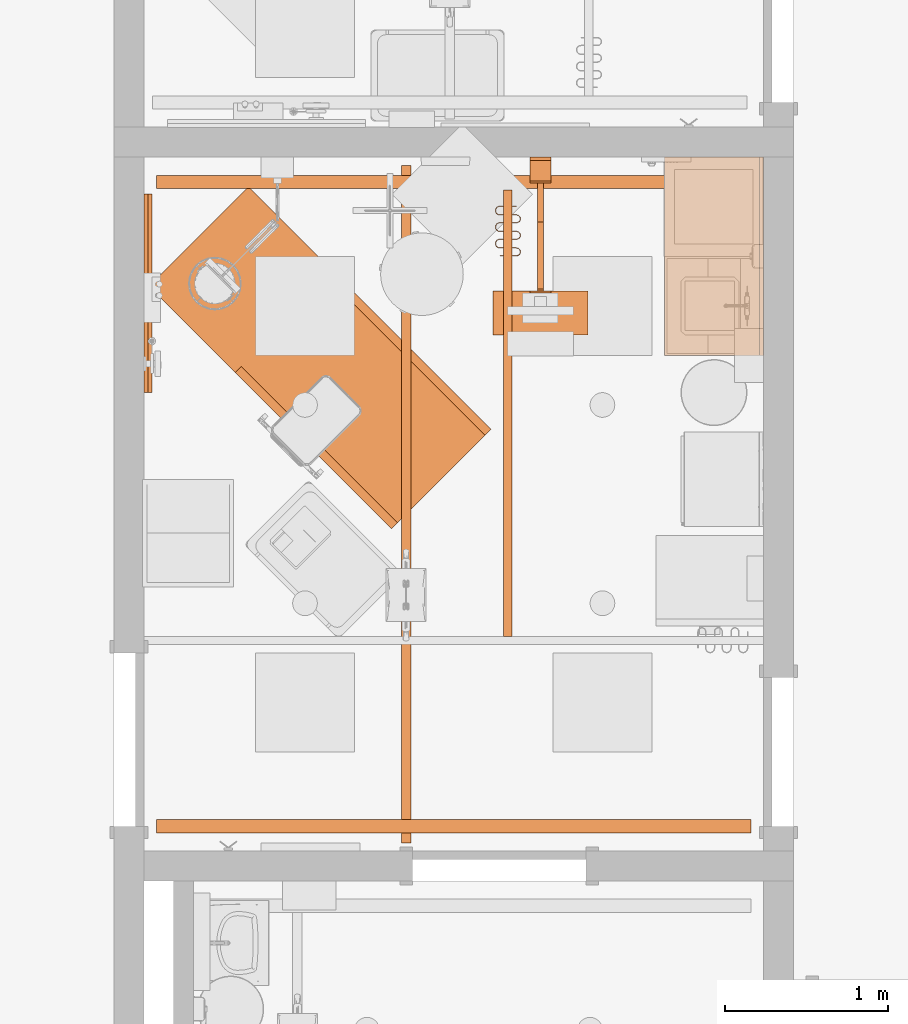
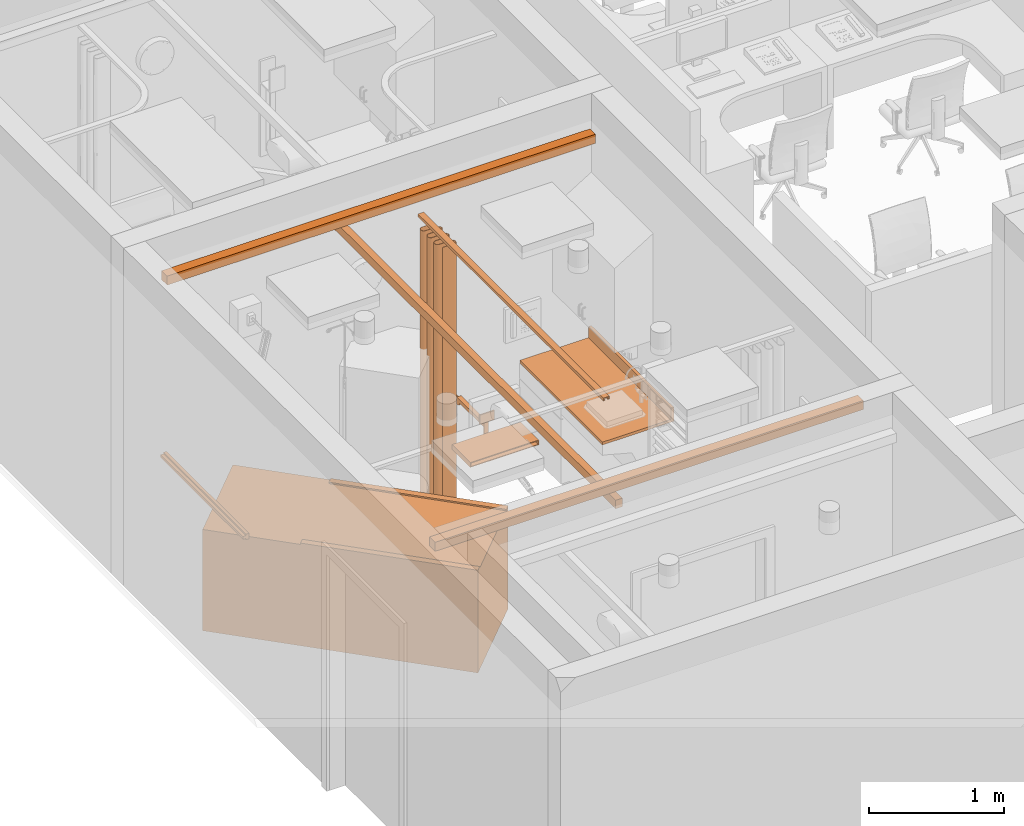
# One storey, part 10 of 142: 6 proxies.
"""IFC2X3 building model written with IfcOpenShell, lengths in feet."""

from ifc_helpers import new_model, entity, si_unit, converted_unit, derived_unit, direction, frame, frame_2d, origin, origin_2d_with_axis, place, context, subcontext, project, spatial, polyline, circle_curve, parameter, trimmed, segment, composite_curve, rectangle, circle, outline, extrude, source, transform, mapped, type_object, type_shapes, element, save


model = new_model("IFC2X3")

# Units and contexts
model_context = context("Model", 3, precision=0.0001, world=origin(), true_north=direction((6.12303176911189e-17, 1.0)))
body_context = subcontext(model_context, "Body", "Model", "MODEL_VIEW")
ifc_project = project(units=[converted_unit("LENGTHUNIT", "FOOT", entity("IfcRatioMeasure", 0.3048), si_unit("LENGTHUNIT", "METRE"), dimensions=[1, 0, 0, 0, 0, 0, 0]), converted_unit("AREAUNIT", "SQUARE FOOT", entity("IfcRatioMeasure", 0.09290304), si_unit("AREAUNIT", "SQUARE_METRE"), dimensions=[2, 0, 0, 0, 0, 0, 0]), converted_unit("VOLUMEUNIT", "CUBIC FOOT", entity("IfcRatioMeasure", 0.028316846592), si_unit("VOLUMEUNIT", "CUBIC_METRE"), dimensions=[3, 0, 0, 0, 0, 0, 0]), converted_unit("PLANEANGLEUNIT", "DEGREE", entity("IfcRatioMeasure", 0.0174532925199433), si_unit("PLANEANGLEUNIT", "RADIAN"), dimensions=[0, 0, 0, 0, 0, 0, 0]), si_unit("MASSUNIT", "GRAM", prefix="KILO"), derived_unit("MASSDENSITYUNIT", [(si_unit("MASSUNIT", "GRAM", prefix="KILO"), 1), (si_unit("LENGTHUNIT", "METRE"), -3)]), si_unit("TIMEUNIT", "SECOND"), si_unit("FREQUENCYUNIT", "HERTZ"), si_unit("THERMODYNAMICTEMPERATUREUNIT", "DEGREE_CELSIUS"), derived_unit("THERMALTRANSMITTANCEUNIT", [(si_unit("MASSUNIT", "GRAM", prefix="KILO"), 1), (si_unit("THERMODYNAMICTEMPERATUREUNIT", "KELVIN"), -1), (si_unit("TIMEUNIT", "SECOND"), -3)]), derived_unit("VOLUMETRICFLOWRATEUNIT", [(si_unit("LENGTHUNIT", "METRE"), 3), (si_unit("TIMEUNIT", "SECOND"), -1)]), si_unit("ELECTRICCURRENTUNIT", "AMPERE"), si_unit("ELECTRICVOLTAGEUNIT", "VOLT"), si_unit("POWERUNIT", "WATT"), si_unit("FORCEUNIT", "NEWTON"), si_unit("ILLUMINANCEUNIT", "LUX"), si_unit("LUMINOUSFLUXUNIT", "LUMEN"), si_unit("LUMINOUSINTENSITYUNIT", "CANDELA"), derived_unit("USERDEFINED", [(si_unit("MASSUNIT", "GRAM", prefix="KILO"), -1), (si_unit("LENGTHUNIT", "METRE"), -2), (si_unit("TIMEUNIT", "SECOND"), 3), (si_unit("LUMINOUSFLUXUNIT", "LUMEN"), 1)]), derived_unit("LINEARVELOCITYUNIT", [(si_unit("LENGTHUNIT", "METRE"), 1), (si_unit("TIMEUNIT", "SECOND"), -1)]), si_unit("PRESSUREUNIT", "PASCAL"), derived_unit("USERDEFINED", [(si_unit("LENGTHUNIT", "METRE"), -2), (si_unit("MASSUNIT", "GRAM", prefix="KILO"), 1), (si_unit("TIMEUNIT", "SECOND"), -2)])], contexts=[model_context])

# Site, building, storey, space
site_placement = place(None, origin())
site = spatial("IfcSite", under=ifc_project, at=site_placement, Name="Default", CompositionType="ELEMENT")
building_placement = place(site_placement, origin())
building = spatial("IfcBuilding", under=site, at=building_placement, Name="OUTPATIENT / PACT CLINIC (Ch. 265)", CompositionType="ELEMENT")
storey_placement = place(building_placement, origin())
storey = spatial("IfcBuildingStorey", under=building, at=storey_placement, Name="LEVEL 1", CompositionType="ELEMENT", Elevation=0.0)
space_placement = place(storey_placement, origin())
space = spatial("IfcSpace", under=storey, at=space_placement, Name="TRPR1", CompositionType="ELEMENT", InteriorOrExteriorSpace="INTERNAL")

# Proxies
building_element_proxy_type_1 = type_object("IfcBuildingElementProxyType", Name="A1132 - Rail, Accessory Mounting", PredefinedType="NOTDEFINED")
shared_shape_1 = source(origin(), body_context, "Body", "SweptSolid", [
    extrude(outline(polyline([(0.0416666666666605, 0.0), (0.0833333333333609, 0.0), (0.083333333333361, 0.0833333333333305), (-0.0833333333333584, 0.0833333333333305), (-0.0833333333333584, 0.0), (-0.0416666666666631, 0.0), (-0.0416666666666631, -0.0833333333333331), (0.0416666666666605, -0.0833333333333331), (0.0416666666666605, 0.0)])), frame((-2.0, -0.0833333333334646, 0.0833333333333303), z_axis=(1.0, 0.0, 0.0), x_axis=(0.0, 0.0, 1.0)), (0.0, 0.0, 1.0), 4.0),
])
type_shapes(building_element_proxy_type_1, [shared_shape_1])
proxy_1_placement = place(space_placement, frame((390.963449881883, -934.792665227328, 4.0), z_axis=(0.0, 0.0, 1.0), x_axis=(0.0, 1.0, 0.0)))
element("IfcBuildingElementProxy", 1, at=proxy_1_placement, inside=space, type_object=building_element_proxy_type_1, Name="A1132 - Rail, Accessory Mounting:A1132 - Rail, Accessory Mounting", ObjectType="A1132 - Rail, Accessory Mounting", context=body_context, shape_type="MappedRepresentation", body=[
    mapped(shared_shape_1, transform((0.0, 0.0, 0.0), scale=1.0)),
])
building_element_proxy_type_2 = type_object("IfcBuildingElementProxyType", Name="A1203 Lift System, Overhead, Bariatric", PredefinedType="NOTDEFINED")
shared_shape_2 = source(origin(), body_context, "Body", "SweptSolid", [
    extrude(rectangle(XDim=13.6666850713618, YDim=0.190288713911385, at=frame_2d((-8.88178419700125e-16, 5.55111512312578e-17), x_axis=(1.0, 0.0))), frame((0.244358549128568, 0.961764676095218, 8.63910761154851), z_axis=(0.0, 0.0, 1.0), x_axis=(-1.0, 0.0, 0.0)), (0.0, 0.0, 1.0), 0.249343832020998),
    extrude(rectangle(XDim=11.9998599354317, YDim=0.267060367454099, at=frame_2d((0.0, 4.44089209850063e-16), x_axis=(1.0, 0.0))), frame((6.74436775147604, 0.0, 8.99015748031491), z_axis=(0.0, 0.0, 1.0), x_axis=(0.0, 1.0, 0.0)), (0.0, 0.0, 1.0), 0.265748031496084),
    extrude(rectangle(XDim=11.9998599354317, YDim=0.267060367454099, at=frame_2d((0.0, 4.44089209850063e-16), x_axis=(1.0, 0.0))), frame((-6.25565065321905, 0.0, 8.99015748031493), z_axis=(0.0, 0.0, 1.0), x_axis=(0.0, 1.0, 0.0)), (0.0, 0.0, 1.0), 0.265748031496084),
])
type_shapes(building_element_proxy_type_2, [shared_shape_2])
proxy_2_placement = place(space_placement, frame((397.213379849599, -939.289886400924, 0.0), z_axis=(0.0, 0.0, 1.0), x_axis=(0.0, 1.0, 0.0)))
element("IfcBuildingElementProxy", 2, at=proxy_2_placement, inside=space, type_object=building_element_proxy_type_2, Name="A1203 Lift System, Overhead, Bariatric (Traverse):A1203 Lift System, Overhead, Bariatric", ObjectType="A1203 Lift System, Overhead, Bariatric", context=body_context, shape_type="MappedRepresentation", body=[
    mapped(shared_shape_2, transform((0.0, 0.0, 0.0), scale=1.0)),
])
building_element_proxy_type_3 = type_object("IfcBuildingElementProxyType", Name="M1802 - Workstation, Computer, Retractable", PredefinedType="NOTDEFINED")
shared_shape_3 = source(origin(), body_context, "Body", "SweptSolid", [
    extrude(circle(Radius=0.104166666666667, at=frame_2d((1.0547118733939e-15, 4.44089209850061e-16), x_axis=(1.0, 0.0))), frame((-0.0624999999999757, -1.40833333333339, 0.333333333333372), z_axis=(1.0, 0.0, 0.0), x_axis=(0.0, 0.0, 1.0)), (0.0, 0.0, 1.0), 0.125000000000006),
    extrude(outline(composite_curve([segment(polyline([(0.0520833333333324, -0.592708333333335), (0.0520833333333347, 0.644791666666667)]), True, "CONTINUOUS"), segment(polyline([(0.0520833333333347, 0.644791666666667), (-0.0520833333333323, 0.644791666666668)]), True, "CONTINUOUS"), segment(polyline([(-0.0520833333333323, 0.644791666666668), (-0.0520833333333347, -0.696875)]), True, "CONTINUOUS"), segment(trimmed(circle_curve(frame_2d((0.0520833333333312, -0.696875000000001), x_axis=(1.0, 0.0)), 0.104166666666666), [parameter(89.9999999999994)], [parameter(180.0)], True, "PARAMETER"), False, "CONTINUOUS")], self_intersect=False)), frame((-0.0624999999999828, -0.711458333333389, 0.281250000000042), z_axis=(-1.0, 0.0, 0.0), x_axis=(0.0, 0.0, 1.0)), (0.0, 0.0, -1.0), 0.125000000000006),
    extrude(outline(composite_curve([segment(polyline([(-0.651041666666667, -0.0520833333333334), (0.598958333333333, -0.0520833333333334)]), True, "CONTINUOUS"), segment(polyline([(0.598958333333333, -0.0520833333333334), (0.598958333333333, 0.0520833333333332)]), True, "CONTINUOUS"), segment(polyline([(0.598958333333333, 0.0520833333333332), (-0.546874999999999, 0.0520833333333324)]), True, "CONTINUOUS"), segment(trimmed(circle_curve(frame_2d((-0.651041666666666, 0.0520833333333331), x_axis=(0.0, -1.0)), 0.104166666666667), [parameter(1.52666624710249e-13)], [parameter(90.0000000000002)], True, "PARAMETER"), False, "CONTINUOUS")], self_intersect=False)), frame((-0.062499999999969, -2.05937500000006, 0.385416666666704), z_axis=(1.0, 0.0, 0.0), x_axis=(0.0, -1.0, 0.0)), (0.0, 0.0, 1.0), 0.125000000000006),
    extrude(outline(polyline([(-0.0729166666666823, -0.95833333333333), (0.0729166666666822, -0.95833333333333), (0.0729166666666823, 0.95833333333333), (-0.0729166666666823, 0.95833333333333), (-0.0729166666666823, -0.95833333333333)]), holes=[polyline([(-0.052083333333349, -0.937499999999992), (-0.052083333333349, 0.937499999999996), (0.0520833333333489, 0.937499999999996), (0.0520833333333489, -0.937499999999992), (-0.052083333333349, -0.937499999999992)])]), frame((0.0, -3.58333333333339, 0.0729166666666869), z_axis=(0.0, 1.0, 0.0), x_axis=(0.0, 0.0, -1.0)), (0.0, 0.0, 1.0), 0.883333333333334),
    extrude(rectangle(XDim=0.0666666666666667, YDim=0.416666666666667, at=origin_2d_with_axis()), frame((0.0, -0.0333333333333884, 0.0), z_axis=(0.0, 0.0, 1.0), x_axis=(0.0, 1.0, 0.0)), (0.0, 0.0, 1.0), 0.11949518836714),
    extrude(outline(polyline([(-0.208333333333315, -0.0270833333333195), (-0.0625000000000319, -0.0270833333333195), (-0.0625000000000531, 0.014583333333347), (0.0625000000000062, 0.014583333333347), (0.0625000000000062, -0.0270833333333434), (0.208333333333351, -0.0270833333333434), (0.208333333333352, 0.0395833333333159), (-0.208333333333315, 0.0395833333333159), (-0.208333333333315, -0.0270833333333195)])), frame((0.0, -0.0395833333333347, 0.119495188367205)), (0.0, 0.0, 1.0), 2.0471714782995),
    extrude(outline(polyline([(-0.194444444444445, 0.125), (0.430555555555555, 0.125), (0.430555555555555, 0.166666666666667), (-0.236111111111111, 0.166666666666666), (-0.236111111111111, -0.291666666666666), (-0.194444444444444, -0.291666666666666), (-0.194444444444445, 0.125)])), frame((-0.208333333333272, -0.358333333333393, 2.40277777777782), z_axis=(1.0, 0.0, 0.0), x_axis=(0.0, 0.0, 1.0)), (0.0, 0.0, 1.0), 0.416666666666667),
    extrude(rectangle(XDim=0.0416666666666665, YDim=0.416666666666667, at=frame_2d((2.22044604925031e-16, 0.0), x_axis=(1.0, 0.0))), frame((0.0, -2.72083333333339, 0.503601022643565), z_axis=(0.0, 0.0, 1.0), x_axis=(0.0, 1.0, 0.0)), (0.0, 0.0, 1.0), 0.267232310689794),
    extrude(rectangle(XDim=0.125000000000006, YDim=0.0416666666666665, at=origin_2d_with_axis()), frame((0.0, -2.67916666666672, 0.0), z_axis=(0.0, 0.0, 1.0), x_axis=(-1.0, 0.0, 0.0)), (0.0, 0.0, 1.0), 0.666666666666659),
    extrude(rectangle(XDim=0.0666666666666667, YDim=0.416666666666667, at=origin_2d_with_axis()), frame((0.0, -0.0333333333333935, 2.16666666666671), z_axis=(0.0, 0.0, 1.0), x_axis=(0.0, 1.0, 0.0)), (0.0, 0.0, 1.0), 0.666666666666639),
])
type_shapes(building_element_proxy_type_3, [shared_shape_3])
proxy_3_placement = place(space_placement, frame((398.963309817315, -932.045518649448, 3.0)))
element("IfcBuildingElementProxy", 3, at=proxy_3_placement, inside=space, type_object=building_element_proxy_type_3, Name="M1802 - Workstation, Computer, Retractable:M1802 - Workstation, Computer, Retractable", ObjectType="M1802 - Workstation, Computer, Retractable", context=body_context, shape_type="MappedRepresentation", body=[
    mapped(shared_shape_3, transform((0.0, 0.0, 0.0), scale=1.0)),
])
building_element_proxy_type_4 = type_object("IfcBuildingElementProxyType", Name="CT020 - Countertop, Solid Surface - No Opening", PredefinedType="NOTDEFINED")
shared_shape_4 = source(origin(), body_context, "Body", "SweptSolid", [
    extrude(rectangle(XDim=4.0, YDim=0.083333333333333, at=frame_2d((0.0, -5.55111512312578e-17), x_axis=(1.0, 0.0))), frame((0.0, 0.958333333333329, 0.0833333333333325)), (0.0, 0.0, 1.0), 0.333333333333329),
    extrude(rectangle(XDim=4.0, YDim=2.0, at=frame_2d((3.33066907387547e-16, 0.0), x_axis=(1.0, 0.0))), origin(), (0.0, 0.0, 1.0), 0.0833333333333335),
])
type_shapes(building_element_proxy_type_4, [shared_shape_4])
proxy_4_placement = place(space_placement, frame((402.463309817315, -934.045518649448, 2.70833333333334), z_axis=(0.0, 0.0, 1.0), x_axis=(0.0, -1.0, 0.0)))
element("IfcBuildingElementProxy", 4, at=proxy_4_placement, inside=space, type_object=building_element_proxy_type_4, Name="CT020 - Countertop, Solid Surface - No Opening:CT020 - Countertop, Solid Surface - No Opening", ObjectType="CT020 - Countertop, Solid Surface - No Opening", context=body_context, shape_type="MappedRepresentation", body=[
    mapped(shared_shape_4, transform((0.0, 0.0, 0.0), scale=1.0)),
])
building_element_proxy_type_5 = type_object("IfcBuildingElementProxyType", Name="M4655 - Stretcher, Mobile, CRS, 9 Position", PredefinedType="NOTDEFINED")
shared_shape_5 = source(origin(), body_context, "Body", "SweptSolid", [
    extrude(rectangle(XDim=4.45833333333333, YDim=0.166666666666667, at=frame_2d((0.0, 1.11022302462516e-16), x_axis=(1.0, 0.0))), frame((-1.33333333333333, 1.22916666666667, 3.0), z_axis=(0.0, 0.0, 1.0), x_axis=(0.0, 1.0, 0.0)), (0.0, 0.0, 1.0), 0.041666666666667),
    extrude(rectangle(XDim=4.45833333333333, YDim=0.166666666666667, at=frame_2d((0.0, -1.11022302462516e-16), x_axis=(1.0, 0.0))), frame((1.33333333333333, 1.22916666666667, 3.0), z_axis=(0.0, 0.0, 1.0), x_axis=(0.0, 1.0, 0.0)), (0.0, 0.0, 1.0), 0.041666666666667),
    extrude(circle(Radius=0.0625, at=origin_2d_with_axis()), frame((1.33333333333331, -0.625000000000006, 2.23941527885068)), (0.0, 0.0, 1.0), 0.760584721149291),
    extrude(circle(Radius=0.0625, at=origin_2d_with_axis()), frame((1.33333333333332, 3.12499999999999, 2.23941527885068)), (0.0, 0.0, 1.0), 0.760584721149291),
    extrude(circle(Radius=0.0625, at=origin_2d_with_axis()), frame((1.33333333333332, 2.37499999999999, 2.23941527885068)), (0.0, 0.0, 1.0), 0.760584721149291),
    extrude(circle(Radius=0.0625, at=origin_2d_with_axis()), frame((1.33333333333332, 1.62499999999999, 2.23941527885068)), (0.0, 0.0, 1.0), 0.760584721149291),
    extrude(circle(Radius=0.0625, at=origin_2d_with_axis()), frame((1.33333333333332, 0.874999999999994, 2.23941527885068)), (0.0, 0.0, 1.0), 0.760584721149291),
    extrude(circle(Radius=0.0625, at=origin_2d_with_axis()), frame((1.33333333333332, 0.124999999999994, 2.23941527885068)), (0.0, 0.0, 1.0), 0.760584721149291),
    extrude(circle(Radius=0.0625, at=origin_2d_with_axis()), frame((-1.33333333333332, 3.12499999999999, 2.23941527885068)), (0.0, 0.0, 1.0), 0.760584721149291),
    extrude(circle(Radius=0.0625, at=origin_2d_with_axis()), frame((-1.33333333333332, 2.37499999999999, 2.23941527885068)), (0.0, 0.0, 1.0), 0.760584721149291),
    extrude(circle(Radius=0.0625, at=origin_2d_with_axis()), frame((-1.33333333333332, 1.62499999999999, 2.23941527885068)), (0.0, 0.0, 1.0), 0.760584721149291),
    extrude(circle(Radius=0.0625, at=origin_2d_with_axis()), frame((-1.33333333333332, 0.874999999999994, 2.23941527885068)), (0.0, 0.0, 1.0), 0.760584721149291),
    extrude(circle(Radius=0.0625, at=origin_2d_with_axis()), frame((-1.33333333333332, 0.124999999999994, 2.23941527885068)), (0.0, 0.0, 1.0), 0.760584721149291),
    extrude(circle(Radius=0.0625, at=origin_2d_with_axis()), frame((-1.33333333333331, -0.625000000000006, 2.23941527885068)), (0.0, 0.0, 1.0), 0.760584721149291),
    extrude(circle(Radius=0.208333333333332, at=frame_2d((0.0, -4.44089209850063e-16), x_axis=(1.0, 0.0))), frame((0.0, 2.125, 1.40608194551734)), (0.0, 0.0, 1.0), 0.75),
    extrude(circle(Radius=0.25, at=frame_2d((0.0, -4.44089209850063e-16), x_axis=(1.0, 0.0))), frame((0.0, 2.12500000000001, 1.15608194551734)), (0.0, 0.0, 1.0), 0.25),
    extrude(circle(Radius=0.208333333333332, at=frame_2d((0.0, -4.44089209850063e-16), x_axis=(1.0, 0.0))), frame((0.0, -2.125, 1.40608194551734)), (0.0, 0.0, 1.0), 0.75),
    extrude(circle(Radius=0.25, at=frame_2d((0.0, -4.44089209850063e-16), x_axis=(1.0, 0.0))), frame((0.0, -2.125, 1.15608194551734)), (0.0, 0.0, 1.0), 0.25),
    extrude(outline(composite_curve([segment(trimmed(circle_curve(frame_2d((-1.08333333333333, 3.20833333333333), x_axis=(1.0, 0.0)), 0.166666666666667), [parameter(89.9999999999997)], [parameter(179.999999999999)], True, "PARAMETER"), True, "CONTINUOUS"), segment(polyline([(-1.25, 3.20833333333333), (-1.25, -3.20833333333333)]), True, "CONTINUOUS"), segment(trimmed(circle_curve(frame_2d((-1.08333333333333, -3.20833333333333), x_axis=(1.0, 0.0)), 0.166666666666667), [parameter(180.0)], [parameter(270.0)], True, "PARAMETER"), True, "CONTINUOUS"), segment(polyline([(-1.08333333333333, -3.375), (1.08333333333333, -3.375)]), True, "CONTINUOUS"), segment(trimmed(circle_curve(frame_2d((1.08333333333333, -3.20833333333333), x_axis=(1.0, 0.0)), 0.166666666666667), [parameter(270.0)], [parameter(0.0)], True, "PARAMETER"), True, "CONTINUOUS"), segment(polyline([(1.25, -3.20833333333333), (1.25, 3.20833333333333)]), True, "CONTINUOUS"), segment(trimmed(circle_curve(frame_2d((1.08333333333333, 3.20833333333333), x_axis=(1.0, 0.0)), 0.166666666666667), [parameter(360.0)], [parameter(89.9999999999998)], True, "PARAMETER"), True, "CONTINUOUS"), segment(polyline([(1.08333333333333, 3.375), (-1.08333333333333, 3.375)]), True, "CONTINUOUS")], self_intersect=False)), frame((0.0, 0.0, 2.23941527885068)), (0.0, 0.0, 1.0), 0.166666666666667),
    extrude(rectangle(XDim=2.83333333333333, YDim=6.91666666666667, at=origin_2d_with_axis()), frame((0.0, 0.0, 2.15608194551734), z_axis=(0.0, 0.0, 1.0), x_axis=(-1.0, 0.0, 0.0)), (0.0, 0.0, 1.0), 0.0833333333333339),
    extrude(outline(composite_curve([segment(polyline([(-0.26871638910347, -3.45833333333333), (0.231283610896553, -3.45833333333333)]), True, "CONTINUOUS"), segment(trimmed(circle_curve(frame_2d((0.554032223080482, -3.125), x_axis=(0.0, 1.0)), 0.463980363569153), [parameter(44.0757141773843)], [parameter(135.924285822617)], True, "PARAMETER"), False, "CONTINUOUS"), segment(polyline([(0.231283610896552, -2.79166666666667), (0.23128361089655, 2.79166666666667)]), True, "CONTINUOUS"), segment(trimmed(circle_curve(frame_2d((0.554032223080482, 3.125), x_axis=(0.0, 1.0)), 0.463980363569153), [parameter(44.0757141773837)], [parameter(135.924285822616)], True, "PARAMETER"), False, "CONTINUOUS"), segment(polyline([(0.231283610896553, 3.45833333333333), (-0.268716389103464, 3.45833333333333)]), True, "CONTINUOUS"), segment(polyline([(-0.268716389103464, 3.45833333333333), (-0.26871638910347, 1.45833333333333)]), True, "CONTINUOUS"), segment(polyline([(-0.26871638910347, 1.45833333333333), (0.0748655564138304, 1.11475138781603)]), True, "CONTINUOUS"), segment(polyline([(0.0748655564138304, 1.11475138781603), (0.0748655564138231, -1.11475138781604)]), True, "CONTINUOUS"), segment(polyline([(0.0748655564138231, -1.11475138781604), (-0.268716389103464, -1.45833333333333)]), True, "CONTINUOUS"), segment(polyline([(-0.268716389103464, -1.45833333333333), (-0.26871638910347, -3.45833333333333)]), True, "CONTINUOUS")], self_intersect=False)), frame((-1.41666666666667, 0.0, 0.887365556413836), z_axis=(1.0, 0.0, 0.0), x_axis=(0.0, 0.0, -1.0)), (0.0, 0.0, 1.0), 2.83333333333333),
    extrude(circle(Radius=0.0833333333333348, at=frame_2d((0.0, -4.44089209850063e-16), x_axis=(1.0, 0.0))), frame((-1.33333333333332, 3.12499999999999, 0.729166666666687), z_axis=(0.0, 0.0, 1.0), x_axis=(-1.0, 0.0, 0.0)), (0.0, 0.0, 1.0), 0.0833333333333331),
    extrude(rectangle(XDim=0.250000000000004, YDim=0.166666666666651, at=origin_2d_with_axis()), frame((-1.33333333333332, 3.125, 0.68750000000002), z_axis=(0.0, 0.0, 1.0), x_axis=(0.0, -1.0, 0.0)), (0.0, 0.0, 1.0), 0.0416666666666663),
    extrude(rectangle(XDim=0.0833333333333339, YDim=0.0416666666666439, at=origin_2d_with_axis()), frame((-1.27083333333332, 3.125, 0.333333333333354), z_axis=(0.0, 0.0, 1.0), x_axis=(0.0, -1.0, 0.0)), (0.0, 0.0, 1.0), 0.354166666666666),
    extrude(rectangle(XDim=0.0833333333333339, YDim=0.0416666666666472, at=frame_2d((0.0, -1.11022302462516e-16), x_axis=(1.0, 0.0))), frame((-1.39583333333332, 3.125, 0.333333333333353), z_axis=(0.0, 0.0, 1.0), x_axis=(0.0, -1.0, 0.0)), (0.0, 0.0, 1.0), 0.354166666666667),
    extrude(circle(Radius=0.333333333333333, at=frame_2d((0.0, -1.49880108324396e-15), x_axis=(1.0, 0.0))), frame((-1.37499999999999, 3.125, 0.333333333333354), z_axis=(1.0, 0.0, 0.0), x_axis=(0.0, -1.0, 0.0)), (0.0, 0.0, 1.0), 0.0833333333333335),
    extrude(circle(Radius=0.0833333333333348, at=frame_2d((0.0, -4.44089209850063e-16), x_axis=(1.0, 0.0))), frame((1.33333333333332, 3.12499999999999, 0.729166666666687)), (0.0, 0.0, 1.0), 0.0833333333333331),
    extrude(rectangle(XDim=0.250000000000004, YDim=0.166666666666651, at=origin_2d_with_axis()), frame((1.33333333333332, 3.125, 0.68750000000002), z_axis=(0.0, 0.0, 1.0), x_axis=(0.0, -1.0, 0.0)), (0.0, 0.0, 1.0), 0.0416666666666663),
    extrude(rectangle(XDim=0.0833333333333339, YDim=0.0416666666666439, at=origin_2d_with_axis()), frame((1.27083333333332, 3.125, 0.333333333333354), z_axis=(0.0, 0.0, 1.0), x_axis=(0.0, -1.0, 0.0)), (0.0, 0.0, 1.0), 0.354166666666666),
    extrude(rectangle(XDim=0.0833333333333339, YDim=0.0416666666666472, at=frame_2d((0.0, -1.11022302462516e-16), x_axis=(1.0, 0.0))), frame((1.39583333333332, 3.125, 0.333333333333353), z_axis=(0.0, 0.0, 1.0), x_axis=(0.0, -1.0, 0.0)), (0.0, 0.0, 1.0), 0.354166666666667),
    extrude(circle(Radius=0.333333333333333, at=frame_2d((0.0, -5.55111512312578e-16), x_axis=(1.0, 0.0))), frame((1.29166666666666, 3.125, 0.333333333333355), z_axis=(1.0, 0.0, 0.0), x_axis=(0.0, -1.0, 0.0)), (0.0, 0.0, 1.0), 0.0833333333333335),
    extrude(circle(Radius=0.0833333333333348, at=origin_2d_with_axis()), frame((-1.33333333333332, -3.12499999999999, 0.729166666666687), z_axis=(0.0, 0.0, 1.0), x_axis=(-1.0, 0.0, 0.0)), (0.0, 0.0, 1.0), 0.0833333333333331),
    extrude(rectangle(XDim=0.250000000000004, YDim=0.166666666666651, at=origin_2d_with_axis()), frame((-1.33333333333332, -3.125, 0.68750000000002), z_axis=(0.0, 0.0, 1.0), x_axis=(0.0, 1.0, 0.0)), (0.0, 0.0, 1.0), 0.0416666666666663),
    extrude(rectangle(XDim=0.0833333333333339, YDim=0.0416666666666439, at=origin_2d_with_axis()), frame((-1.27083333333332, -3.125, 0.333333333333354), z_axis=(0.0, 0.0, 1.0), x_axis=(0.0, 1.0, 0.0)), (0.0, 0.0, 1.0), 0.354166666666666),
    extrude(rectangle(XDim=0.0833333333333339, YDim=0.0416666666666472, at=frame_2d((0.0, -1.11022302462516e-16), x_axis=(1.0, 0.0))), frame((-1.39583333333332, -3.125, 0.333333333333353), z_axis=(0.0, 0.0, 1.0), x_axis=(0.0, 1.0, 0.0)), (0.0, 0.0, 1.0), 0.354166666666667),
    extrude(circle(Radius=0.333333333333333, at=frame_2d((0.0, -1.49880108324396e-15), x_axis=(1.0, 0.0))), frame((-1.37499999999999, -3.125, 0.333333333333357), z_axis=(1.0, 0.0, 0.0), x_axis=(0.0, 1.0, 0.0)), (0.0, 0.0, 1.0), 0.0833333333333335),
    extrude(circle(Radius=0.0833333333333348, at=origin_2d_with_axis()), frame((1.33333333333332, -3.12499999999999, 0.729166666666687)), (0.0, 0.0, 1.0), 0.0833333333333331),
    extrude(rectangle(XDim=0.250000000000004, YDim=0.166666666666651, at=origin_2d_with_axis()), frame((1.33333333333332, -3.125, 0.68750000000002), z_axis=(0.0, 0.0, 1.0), x_axis=(0.0, 1.0, 0.0)), (0.0, 0.0, 1.0), 0.0416666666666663),
    extrude(rectangle(XDim=0.0833333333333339, YDim=0.0416666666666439, at=origin_2d_with_axis()), frame((1.27083333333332, -3.125, 0.333333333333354), z_axis=(0.0, 0.0, 1.0), x_axis=(0.0, 1.0, 0.0)), (0.0, 0.0, 1.0), 0.354166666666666),
    extrude(rectangle(XDim=0.0833333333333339, YDim=0.0416666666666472, at=frame_2d((0.0, -1.11022302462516e-16), x_axis=(1.0, 0.0))), frame((1.39583333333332, -3.125, 0.333333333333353), z_axis=(0.0, 0.0, 1.0), x_axis=(0.0, 1.0, 0.0)), (0.0, 0.0, 1.0), 0.354166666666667),
    extrude(circle(Radius=0.333333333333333, at=frame_2d((0.0, -5.55111512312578e-16), x_axis=(1.0, 0.0))), frame((1.29166666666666, -3.125, 0.333333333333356), z_axis=(1.0, 0.0, 0.0), x_axis=(0.0, 1.0, 0.0)), (0.0, 0.0, 1.0), 0.0833333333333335),
    extrude(rectangle(XDim=6.91666666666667, YDim=2.83333333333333, at=frame_2d((0.0, 0.283333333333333), x_axis=(1.0, 0.0))), frame((-0.283333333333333, 0.0, 0.0), z_axis=(0.0, 0.0, 1.0), x_axis=(0.0, -1.0, 0.0)), (0.0, 0.0, 1.0), 2.99999999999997),
])
type_shapes(building_element_proxy_type_5, [shared_shape_5])
proxy_5_placement = place(space_placement, frame((394.516530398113, -936.092917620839, 0.0), z_axis=(0.0, 0.0, 1.0), x_axis=(-0.707106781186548, -0.707106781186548, 0.0)))
element("IfcBuildingElementProxy", 5, at=proxy_5_placement, inside=space, type_object=building_element_proxy_type_5, Name="M4655 - Stretcher, Mobile, CRS, 9 Position1:M4655 - Stretcher, Mobile, CRS, 9 Position", ObjectType="M4655 - Stretcher, Mobile, CRS, 9 Position", context=body_context, shape_type="MappedRepresentation", body=[
    mapped(shared_shape_5, transform((0.0, 0.0, 0.0), scale=1.0)),
])
building_element_proxy_type_6 = type_object("IfcBuildingElementProxyType", Name="A5180 - Track, Cubicle, Surface Mounted, With Curtain, Straight_6-10", PredefinedType="NOTDEFINED")
shared_shape_6 = source(origin(), body_context, "Body", "SweptSolid", [
    extrude(outline(composite_curve([segment(trimmed(circle_curve(frame_2d((-0.417410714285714, -0.166666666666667), x_axis=(1.0, 0.0)), 0.0833333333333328), [parameter(180.0)], [parameter(4.57999874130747e-13)], True, "PARAMETER"), True, "CONTINUOUS"), segment(polyline([(-0.334077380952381, -0.166666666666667), (-0.334077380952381, 0.166666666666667)]), True, "CONTINUOUS"), segment(trimmed(circle_curve(frame_2d((-0.250744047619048, 0.166666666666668), x_axis=(1.0, 0.0)), 0.0833333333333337), [parameter(1.01777749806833e-13)], [parameter(180.0)], True, "PARAMETER"), False, "CONTINUOUS"), segment(polyline([(-0.167410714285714, 0.166666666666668), (-0.167410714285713, -0.166666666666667)]), True, "CONTINUOUS"), segment(trimmed(circle_curve(frame_2d((-0.0840773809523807, -0.166666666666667), x_axis=(1.0, 0.0)), 0.0833333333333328), [parameter(180.0)], [parameter(4.57999874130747e-13)], True, "PARAMETER"), True, "CONTINUOUS"), segment(polyline([(-0.000744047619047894, -0.166666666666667), (-0.000744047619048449, 0.166666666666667)]), True, "CONTINUOUS"), segment(trimmed(circle_curve(frame_2d((0.0825892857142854, 0.166666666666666), x_axis=(1.0, 0.0)), 0.0833333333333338), [parameter(360.0)], [parameter(180.0)], True, "PARAMETER"), False, "CONTINUOUS"), segment(polyline([(0.165922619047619, 0.166666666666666), (0.16592261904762, -0.166666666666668)]), True, "CONTINUOUS"), segment(trimmed(circle_curve(frame_2d((0.249255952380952, -0.166666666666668), x_axis=(1.0, 0.0)), 0.0833333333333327), [parameter(180.0)], [parameter(4.57999874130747e-13)], True, "PARAMETER"), True, "CONTINUOUS"), segment(polyline([(0.332589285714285, -0.166666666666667), (0.332589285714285, 0.166666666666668)]), True, "CONTINUOUS"), segment(trimmed(circle_curve(frame_2d((0.415922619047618, 0.166666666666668), x_axis=(1.0, 0.0)), 0.0833333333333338), [parameter(5.08888749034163e-14)], [parameter(180.0)], True, "PARAMETER"), False, "CONTINUOUS"), segment(polyline([(0.499255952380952, 0.166666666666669), (0.499255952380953, -0.166666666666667)]), True, "CONTINUOUS"), segment(polyline([(0.499255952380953, -0.166666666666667), (0.50967261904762, -0.166666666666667)]), True, "CONTINUOUS"), segment(polyline([(0.50967261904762, -0.166666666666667), (0.509672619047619, 0.166666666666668)]), True, "CONTINUOUS"), segment(trimmed(circle_curve(frame_2d((0.415922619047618, 0.166666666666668), x_axis=(1.0, 0.0)), 0.0937500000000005), [parameter(4.07110999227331e-13)], [parameter(180.0)], True, "PARAMETER"), True, "CONTINUOUS"), segment(polyline([(0.322172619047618, 0.166666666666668), (0.322172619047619, -0.166666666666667)]), True, "CONTINUOUS"), segment(trimmed(circle_curve(frame_2d((0.249255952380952, -0.166666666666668), x_axis=(1.0, 0.0)), 0.072916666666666), [parameter(180.0)], [parameter(360.0)], True, "PARAMETER"), False, "CONTINUOUS"), segment(polyline([(0.176339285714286, -0.166666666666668), (0.176339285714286, 0.166666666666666)]), True, "CONTINUOUS"), segment(trimmed(circle_curve(frame_2d((0.0825892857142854, 0.166666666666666), x_axis=(1.0, 0.0)), 0.0937500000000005), [parameter(4.57999874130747e-13)], [parameter(180.0)], True, "PARAMETER"), True, "CONTINUOUS"), segment(polyline([(-0.0111607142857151, 0.166666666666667), (-0.0111607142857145, -0.166666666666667)]), True, "CONTINUOUS"), segment(trimmed(circle_curve(frame_2d((-0.0840773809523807, -0.166666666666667), x_axis=(1.0, 0.0)), 0.0729166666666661), [parameter(180.0)], [parameter(360.0)], True, "PARAMETER"), False, "CONTINUOUS"), segment(polyline([(-0.156994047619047, -0.166666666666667), (-0.156994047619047, 0.166666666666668)]), True, "CONTINUOUS"), segment(trimmed(circle_curve(frame_2d((-0.250744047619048, 0.166666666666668), x_axis=(1.0, 0.0)), 0.0937500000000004), [parameter(5.08888749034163e-13)], [parameter(180.0)], True, "PARAMETER"), True, "CONTINUOUS"), segment(polyline([(-0.344494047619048, 0.166666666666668), (-0.344494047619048, -0.166666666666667)]), True, "CONTINUOUS"), segment(trimmed(circle_curve(frame_2d((-0.417410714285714, -0.166666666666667), x_axis=(1.0, 0.0)), 0.0729166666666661), [parameter(180.0)], [parameter(360.0)], True, "PARAMETER"), False, "CONTINUOUS"), segment(polyline([(-0.49032738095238, -0.166666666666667), (-0.49032738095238, 0.166666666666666)]), True, "CONTINUOUS"), segment(polyline([(-0.49032738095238, 0.166666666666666), (-0.500744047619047, 0.166666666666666)]), True, "CONTINUOUS"), segment(polyline([(-0.500744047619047, 0.166666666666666), (-0.500744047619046, -0.166666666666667)]), True, "CONTINUOUS")], self_intersect=False)), frame((0.506771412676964, -0.0104166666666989, 0.313481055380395)), (0.0, 0.0, 1.0), 8.51985227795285),
    extrude(outline(polyline([(-0.0833333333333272, -0.0520833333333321), (0.0833333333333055, -0.0520833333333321), (0.0833333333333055, 0.03125), (0.0416666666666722, 0.03125), (0.0416666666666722, 0.0104166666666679), (0.0625000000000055, 0.0104166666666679), (0.0625000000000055, -0.03125), (-0.0624999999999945, -0.03125), (-0.0624999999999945, 0.0104166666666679), (-0.0416666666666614, 0.0104166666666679), (-0.0416666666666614, 0.03125), (-0.0833333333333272, 0.03125), (-0.0833333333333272, -0.0520833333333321)])), frame((-7.66666666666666, 0.0, 8.94791666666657), z_axis=(1.0, 0.0, 0.0), x_axis=(0.0, -1.0, 0.0)), (0.0, 0.0, 1.0), 9.0),
])
type_shapes(building_element_proxy_type_6, [shared_shape_6])
proxy_6_placement = place(space_placement, frame((398.301851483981, -934.045518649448, -0.333333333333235), z_axis=(0.0, 0.0, 1.0), x_axis=(0.0, 1.0, 0.0)))
element("IfcBuildingElementProxy", 6, at=proxy_6_placement, inside=space, type_object=building_element_proxy_type_6, Name="A5180 - Track, Cubicle, Surface Mounted, With Curtain, Straight_8'-6\":A5180 - Track, Cubicle, Surface Mounted, With Curtain, Straight_6-10", ObjectType="A5180 - Track, Cubicle, Surface Mounted, With Curtain, Straight_6-10", context=body_context, shape_type="MappedRepresentation", body=[
    mapped(shared_shape_6, transform((0.0, 0.0, 0.0), scale=1.0)),
])

save(model, "model.ifc")
